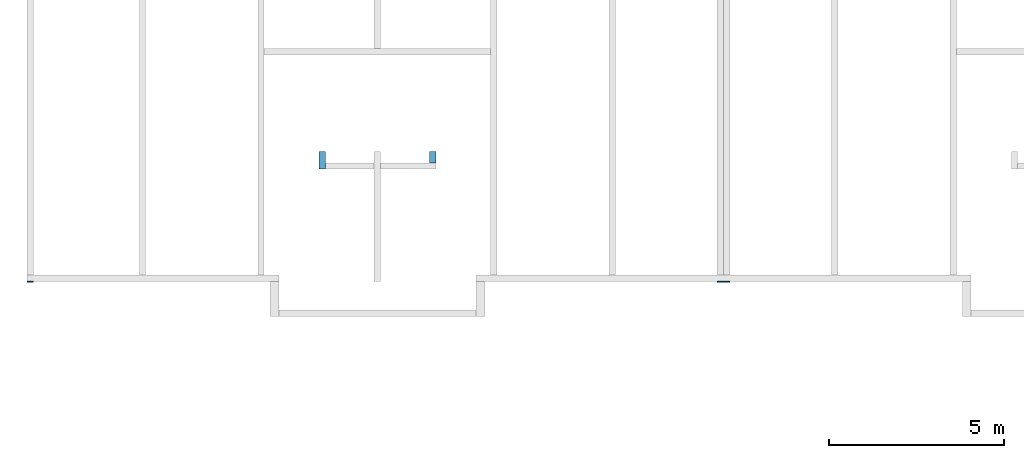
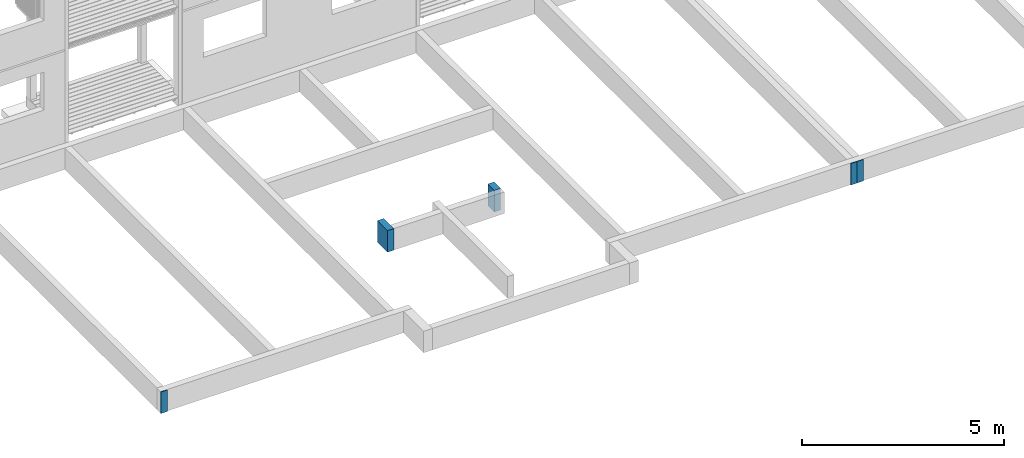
# One storey, part 2 of 182: 5 walls.
"""IFC2X3 building model written with IfcOpenShell, lengths in metres."""

from ifc_helpers import new_model, si_unit, frame, frame_2d, origin, origin_with_axes, place, context, project, spatial, rectangle, extrude, element, save


model = new_model("IFC2X3")

# Units and contexts
model_context = context("Model", 3, precision=1e-06, world=origin())
ifc_project = project(units=[si_unit("LENGTHUNIT", "METRE"), si_unit("PLANEANGLEUNIT", "RADIAN")], contexts=[model_context])

# Site, building, storey
site = spatial("IfcSite", under=ifc_project, CompositionType="ELEMENT")
building = spatial("IfcBuilding", under=site, CompositionType="ELEMENT")
storey = spatial("IfcBuildingStorey", under=building, Name="vs", CompositionType="ELEMENT", Elevation=-0.85)

# Walls
placement = place(None, origin())
wall_1_placement = place(placement, frame((20.029999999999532, 2e-15, -0.85), z_axis=(0.0, 0.0, 1.0), x_axis=(-1.0, 0.0, 0.0)))
element("IfcWall", 1, at=wall_1_placement, inside=storey, context=model_context, shape_type="SweptSolid", body=[
    extrude(rectangle(XDim=0.18, YDim=0.020162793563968, at=frame_2d((0.09, 0.010081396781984), x_axis=(1.0, 0.0)), kind="CURVE"), frame((0.0, -0.020162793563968, 0.0), z_axis=(0.0, 0.0, 1.0), x_axis=(1.0, 0.0, 0.0)), (0.0, 0.0, 1.0), 0.65),
])
wall_2_placement = place(placement, frame((-6e-15, 0.020077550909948, -0.85), z_axis=(0.0, 0.0, 1.0), x_axis=(1.0, 0.0, 0.0)))
element("IfcWall", 2, at=wall_2_placement, inside=storey, context=model_context, shape_type="SweptSolid", body=[
    extrude(rectangle(XDim=0.18, YDim=0.020077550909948, at=frame_2d((0.09, 0.010038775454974), x_axis=(1.0, 0.0)), kind="CURVE"), frame((0.0, -0.020077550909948, 0.0), z_axis=(0.0, 0.0, 1.0), x_axis=(1.0, 0.0, 0.0)), (0.0, 0.0, 1.0), 0.65),
])
wall_3_placement = place(placement, frame((8.499999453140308, 3.220077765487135, -0.85), z_axis=(0.0, 0.0, 1.0), x_axis=(0.0, 1.0, 0.0)))
element("IfcWall", 3, at=wall_3_placement, inside=storey, context=model_context, shape_type="SweptSolid", body=[
    extrude(rectangle(XDim=0.5, YDim=0.18, at=frame_2d((0.25, 0.09), x_axis=(1.0, 0.0)), kind="CURVE"), origin_with_axes(), (0.0, 0.0, 1.0), 0.65),
])
wall_4_placement = place(placement, frame((11.46999945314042, 3.720077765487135, -0.85), z_axis=(0.0, 0.0, 1.0), x_axis=(0.0, -1.0, 0.0)))
element("IfcWall", 4, at=wall_4_placement, inside=storey, context=model_context, shape_type="SweptSolid", body=[
    extrude(rectangle(XDim=0.32, YDim=0.18, at=frame_2d((0.16, 0.09), x_axis=(1.0, 0.0)), kind="CURVE"), origin_with_axes(), (0.0, 0.0, 1.0), 0.65),
])
wall_5_placement = place(placement, frame((19.849999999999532, 2e-15, -0.85), z_axis=(0.0, 0.0, 1.0), x_axis=(-1.0, 0.0, 0.0)))
element("IfcWall", 5, at=wall_5_placement, inside=storey, context=model_context, shape_type="SweptSolid", body=[
    extrude(rectangle(XDim=0.18, YDim=0.020162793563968, at=frame_2d((0.09, 0.010081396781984), x_axis=(1.0, 0.0)), kind="CURVE"), frame((0.0, -0.020162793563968, 0.0), z_axis=(0.0, 0.0, 1.0), x_axis=(1.0, 0.0, 0.0)), (0.0, 0.0, 1.0), 0.65),
])

save(model, "model.ifc")
